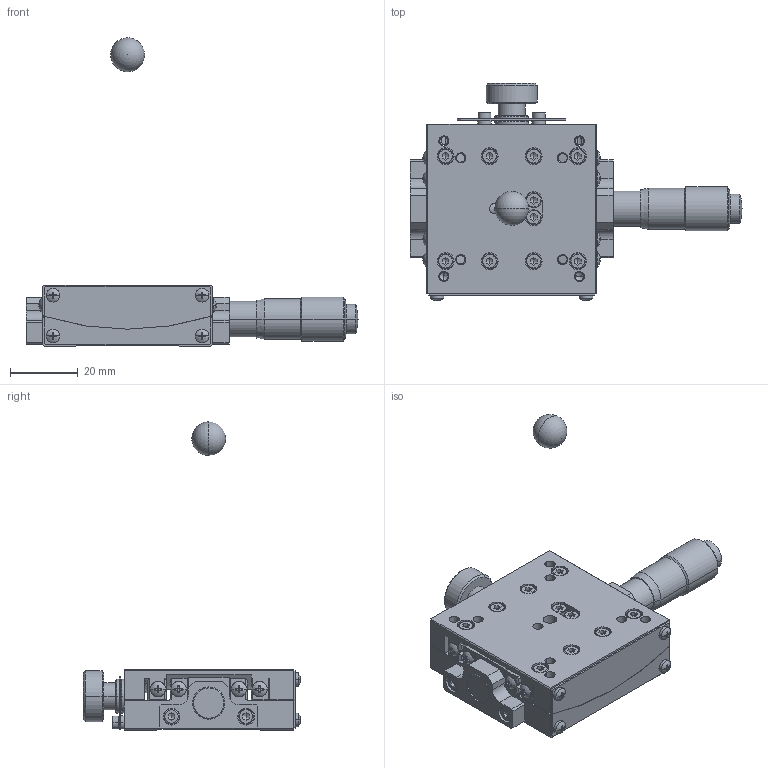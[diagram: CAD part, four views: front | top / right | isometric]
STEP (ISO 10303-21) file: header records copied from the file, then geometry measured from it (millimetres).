
FILE_DESCRIPTION (( 'STEP AP214' ), '1' );
FILE_NAME ('ST05A-C1M.STEP', '2007-01-19T01:23:44', ( ' ' ), ( ' ' ), 'SwSTEP 2.0', 'SolidWorks 2006052', '' );
FILE_SCHEMA (( 'AUTOMOTIVE_DESIGN' ));
Length unit declared in the file: millimetre
Products named in the file (6): ST05A-C1M-Part-1; 002570-1020(3D); 002570-1010(3D); MICROMETERHEAD(MHS4-13)spindle-2; 002560-1130(3D)-2; ST05A-C1M
Assembly tree (5 placements, depth 2):
  ST05A-C1M
    MICROMETERHEAD(MHS4-13)spindle-2
    002570-1010(3D)
    ST05A-C1M-Part-1
    002570-1020(3D)
    002560-1130(3D)-2
Bounding box: 98 x 64.09 x 91 mm (x, y, z)
Volume: 46506.9 mm3; surface area: 32804.7 mm2
Topology: 5 solids, 37 shells, 1889 faces, 4609 edges, 2752 vertices
Faces by surface type: plane 817, cylinder 613, cone 335, torus 92, sphere 32
Entity records: 58480 total; most frequent: CARTESIAN_POINT 14007, DIRECTION 9628, ORIENTED_EDGE 8988, EDGE_CURVE 4494, AXIS2_PLACEMENT_3D 3745, VERTEX_POINT 2749, VECTOR 2138, LINE 2138
